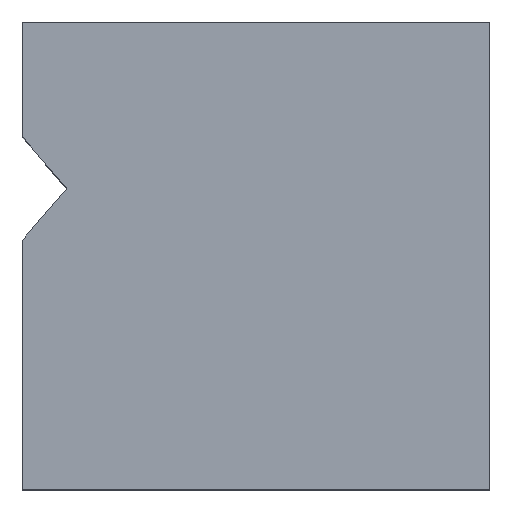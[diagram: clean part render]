
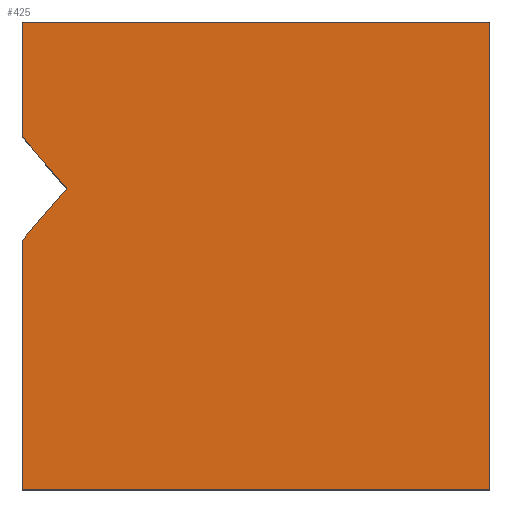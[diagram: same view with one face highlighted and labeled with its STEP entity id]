
A CAD part, top view. The second image highlights one B-rep face of the part: STEP entity #425.
In plain terms, the highlighted planar face has unit normal (0, 0, 1).
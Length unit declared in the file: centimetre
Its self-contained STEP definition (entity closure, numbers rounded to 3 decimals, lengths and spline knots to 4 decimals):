
#2 = ORIENTED_EDGE ( 'NONE', *, *, #494, .T. ) ;
#4 = EDGE_CURVE ( 'NONE', #366, #530, #9, .T. ) ;
#9 = LINE ( 'NONE', #385, #549 ) ;
#16 = ORIENTED_EDGE ( 'NONE', *, *, #267, .T. ) ;
#23 = CARTESIAN_POINT ( 'NONE',  ( 0., 533.2744, 1000. ) ) ;
#73 = VECTOR ( 'NONE', #75, 100. ) ;
#75 = DIRECTION ( 'NONE',  ( 1., 0., 0. ) ) ;
#78 = LINE ( 'NONE', #85, #526 ) ;
#83 = DIRECTION ( 'NONE',  ( -1., 0., 0. ) ) ;
#85 = CARTESIAN_POINT ( 'NONE',  ( 0., 1000., 1000. ) ) ;
#92 = LINE ( 'NONE', #541, #481 ) ;
#93 = EDGE_LOOP ( 'NONE', ( #482, #583, #122, #396, #16, #2, #567 ) ) ;
#122 = ORIENTED_EDGE ( 'NONE', *, *, #534, .T. ) ;
#123 = CARTESIAN_POINT ( 'NONE',  ( 0., 0., 1000. ) ) ;
#127 = CARTESIAN_POINT ( 'NONE',  ( 1000., 1000., 1000. ) ) ;
#130 = EDGE_CURVE ( 'NONE', #507, #564, #78, .T. ) ;
#142 = CARTESIAN_POINT ( 'NONE',  ( 0., 533.2744, 1000. ) ) ;
#226 = CARTESIAN_POINT ( 'NONE',  ( 95.2829, 643.6812, 1000. ) ) ;
#239 = DIRECTION ( 'NONE',  ( -0.653, -0.757, 0. ) ) ;
#245 = EDGE_CURVE ( 'NONE', #519, #507, #551, .T. ) ;
#249 = DIRECTION ( 'NONE',  ( 0., -1., 0. ) ) ;
#259 = FACE_OUTER_BOUND ( 'NONE', #93, .T. ) ;
#267 = EDGE_CURVE ( 'NONE', #530, #302, #92, .T. ) ;
#297 = CARTESIAN_POINT ( 'NONE',  ( 1000., 0., 1000. ) ) ;
#302 = VERTEX_POINT ( 'NONE', #501 ) ;
#328 = AXIS2_PLACEMENT_3D ( 'NONE', #666, #660, #460 ) ;
#354 = CARTESIAN_POINT ( 'NONE',  ( 95.2829, 643.6812, 1000. ) ) ;
#366 = VERTEX_POINT ( 'NONE', #297 ) ;
#379 = VECTOR ( 'NONE', #239, 100. ) ;
#385 = CARTESIAN_POINT ( 'NONE',  ( 1000., 1000., 1000. ) ) ;
#389 = EDGE_CURVE ( 'NONE', #652, #519, #456, .T. ) ;
#396 = ORIENTED_EDGE ( 'NONE', *, *, #4, .T. ) ;
#406 = PLANE ( 'NONE',  #328 ) ;
#425 = ADVANCED_FACE ( 'NONE', ( #259 ), #406, .T. ) ;
#453 = DIRECTION ( 'NONE',  ( 0.653, -0.757, 0. ) ) ;
#456 = LINE ( 'NONE', #354, #640 ) ;
#460 = DIRECTION ( 'NONE',  ( 1., 0., 0. ) ) ;
#476 = DIRECTION ( 'NONE',  ( 0., -1., 0. ) ) ;
#481 = VECTOR ( 'NONE', #83, 100. ) ;
#482 = ORIENTED_EDGE ( 'NONE', *, *, #245, .T. ) ;
#494 = EDGE_CURVE ( 'NONE', #302, #652, #529, .T. ) ;
#501 = CARTESIAN_POINT ( 'NONE',  ( 0., 1000., 1000. ) ) ;
#504 = CARTESIAN_POINT ( 'NONE',  ( 0., 754.088, 1000. ) ) ;
#507 = VERTEX_POINT ( 'NONE', #23 ) ;
#519 = VERTEX_POINT ( 'NONE', #226 ) ;
#526 = VECTOR ( 'NONE', #249, 100. ) ;
#529 = LINE ( 'NONE', #538, #589 ) ;
#530 = VERTEX_POINT ( 'NONE', #127 ) ;
#531 = LINE ( 'NONE', #535, #73 ) ;
#534 = EDGE_CURVE ( 'NONE', #564, #366, #531, .T. ) ;
#535 = CARTESIAN_POINT ( 'NONE',  ( 0., 0., 1000. ) ) ;
#538 = CARTESIAN_POINT ( 'NONE',  ( 0., 1000., 1000. ) ) ;
#541 = CARTESIAN_POINT ( 'NONE',  ( 0., 1000., 1000. ) ) ;
#549 = VECTOR ( 'NONE', #569, 100. ) ;
#551 = LINE ( 'NONE', #142, #379 ) ;
#564 = VERTEX_POINT ( 'NONE', #123 ) ;
#567 = ORIENTED_EDGE ( 'NONE', *, *, #389, .T. ) ;
#569 = DIRECTION ( 'NONE',  ( 0., 1., 0. ) ) ;
#583 = ORIENTED_EDGE ( 'NONE', *, *, #130, .T. ) ;
#589 = VECTOR ( 'NONE', #476, 100. ) ;
#640 = VECTOR ( 'NONE', #453, 100. ) ;
#652 = VERTEX_POINT ( 'NONE', #504 ) ;
#660 = DIRECTION ( 'NONE',  ( 0., 0., 1. ) ) ;
#666 = CARTESIAN_POINT ( 'NONE',  ( 0., 0., 1000. ) ) ;
